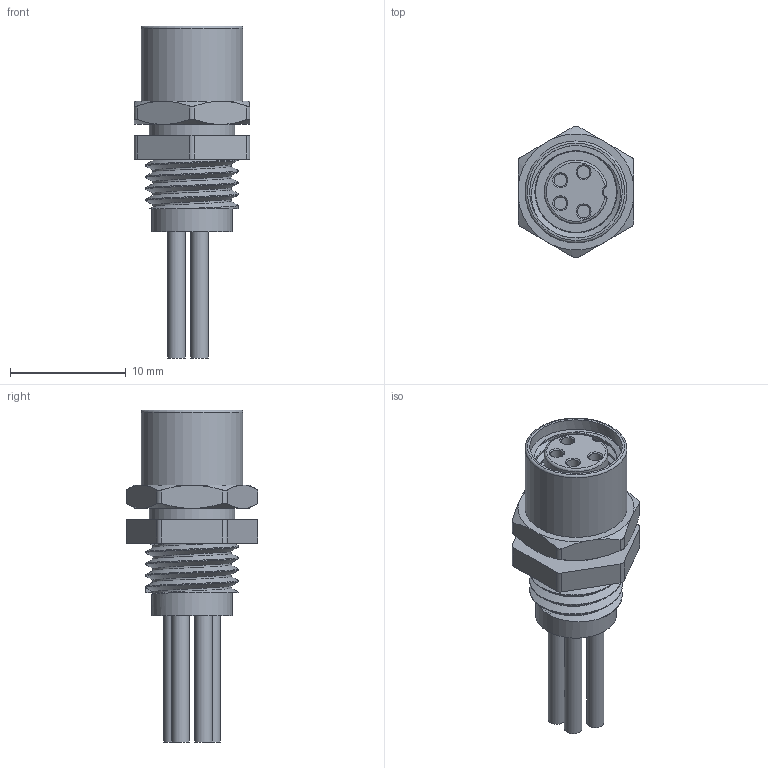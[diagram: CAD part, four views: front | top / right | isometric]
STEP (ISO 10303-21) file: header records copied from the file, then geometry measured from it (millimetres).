
FILE_DESCRIPTION(/* description */ (''),/* implementation_level */ '2;1');
FILE_NAME(/* name */ 'FL-M8-4FF-L.stp',/* time_stamp */ '2023-11-27T19:54:21+08:00',/* author */ (''),/* organization */ (''),/* preprocessor_version */ 'ST-DEVELOPER v16.7',/* originating_system */ 'SIEMENS PLM Software NX 12.0',/* authorisation */ '');
FILE_SCHEMA (('AP203_CONFIGURATION_CONTROLLED_3D_DESIGN_OF_MECHANICAL_PARTS_AND_ASSEMBLIES_MIM_LF { 1 0 10303 403 2 1 2}'));
Length unit declared in the file: millimetre
Products named in the file (1): Admi21B8053Bs0ne
Bounding box: 10 x 11.39 x 28.7 mm (x, y, z)
Volume: 895.3 mm3; surface area: 1626.7 mm2
Topology: 1 solids, 3 shells, 143 faces, 340 edges, 221 vertices
Faces by surface type: plane 61, cylinder 49, cone 16, bspline 10, torus 7
Full cylindrical faces by diameter (mm): 1.1 x4, 1.5 x8, 6.4 x1, 6.7 x1, 7 x2, 7.4 x1, 8 x6, 8.8 x1
Entity records: 8041 total; most frequent: CARTESIAN_POINT 5015, ORIENTED_EDGE 580, DIRECTION 563, EDGE_CURVE 290, AXIS2_PLACEMENT_3D 232, VERTEX_POINT 202, EDGE_LOOP 182, ADVANCED_FACE 137
